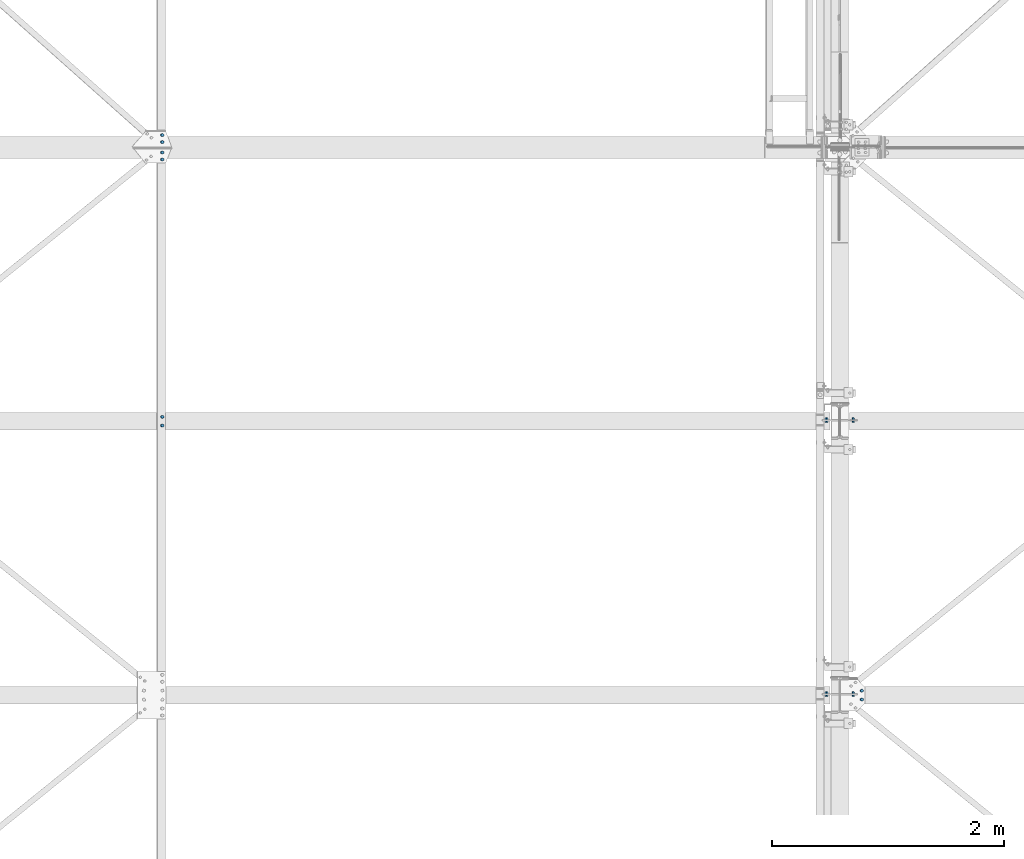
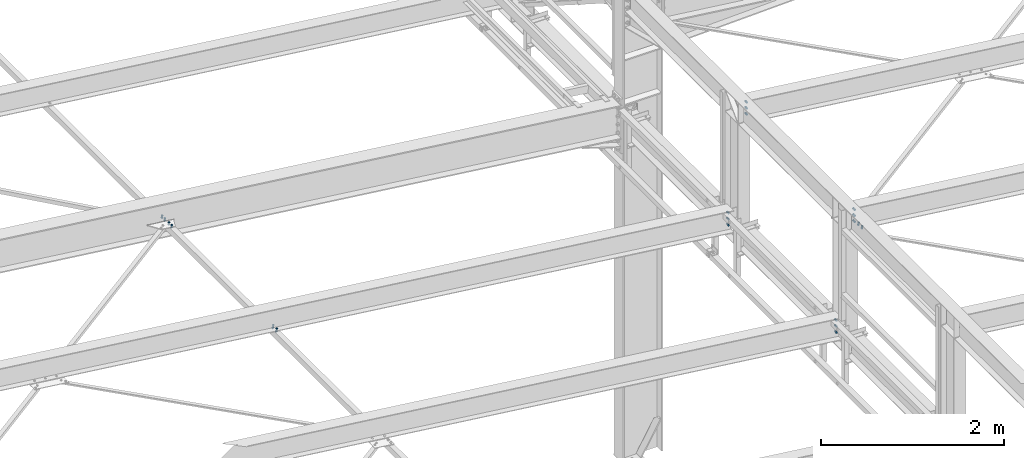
# One storey, part 137 of 3134: 8 mechanical fasteners, 6 elements without a shape of their own.
"""IFC2X3 building model written with IfcOpenShell, lengths in millimetres."""

import ifcopenshell
import ifcopenshell.guid

model = None  # the IFC model being written
_history = None  # IfcOwnerHistory: only IFC2X3 demands one
_inside = {}  # id of a spatial element -> (the spatial element, [elements in it])
_under = {}  # id of a project, library or spatial element -> (it, [spatial elements below it])
_declared = {}  # id of a project -> (the project, [libraries it declares])
_typed = {}  # id of a type object -> (the type object, [elements of that type])
_made_of = {}  # id of a material, layer set ... -> (it, [elements and type objects made of it])


def new_model(schema):
    """Start an empty IFC model of exactly this schema.

    Asked for "IFC4X3", IfcOpenShell would pick the latest addendum, in which some entities
    have other attributes; the version numbers below select the first issue.
    IFC2X3 requires an IfcOwnerHistory on every rooted entity: one is made here for all.
    """
    global model, _history
    if schema == "IFC4X3":
        model = ifcopenshell.file(schema_version=(4, 3, 0, 0))
    else:
        model = ifcopenshell.file(schema=schema)
    _inside.clear()
    _under.clear()
    _declared.clear()
    _typed.clear()
    _made_of.clear()
    _history = None
    if model.schema == "IFC2X3":
        org = make("IfcOrganization", Name="unknown")
        user = make(
            "IfcPersonAndOrganization",
            ThePerson=make("IfcPerson", FamilyName="unknown"),
            TheOrganization=org,
        )
        app = make(
            "IfcApplication",
            ApplicationDeveloper=org,
            Version="unknown",
            ApplicationFullName="unknown",
            ApplicationIdentifier="unknown",
        )
        _history = make(
            "IfcOwnerHistory",
            OwningUser=user,
            OwningApplication=app,
            ChangeAction="ADDED",
            CreationDate=0,
        )
    return model


def make(cls, **values):
    """One entity of the class cls with the attributes given. An attribute that is None is left unset."""
    return model.create_entity(
        cls, **{name: value for name, value in values.items() if value is not None}
    )


def rooted(cls, **values):
    """An entity with a GlobalId (a new one), such as an element, a storey or a relation."""
    return make(cls, GlobalId=ifcopenshell.guid.new(), OwnerHistory=_history, **values)


def si_unit(unit_type, name, prefix=None):
    """IfcSIUnit, for example si_unit("LENGTHUNIT", "METRE", prefix="MILLI")."""
    return make("IfcSIUnit", UnitType=unit_type, Prefix=prefix, Name=name)


def assignment(units):
    """IfcUnitAssignment: the units of a project."""
    return None if units is None else make("IfcUnitAssignment", Units=units)


def point(xyz):
    """IfcCartesianPoint."""
    return None if xyz is None else make("IfcCartesianPoint", Coordinates=xyz)


def direction(xyz):
    """IfcDirection."""
    return None if xyz is None else make("IfcDirection", DirectionRatios=xyz)


def frame(location, z_axis=None, x_axis=None):
    """IfcAxis2Placement3D, a coordinate frame: its origin and axes. An axis left out is left unset."""
    return make(
        "IfcAxis2Placement3D",
        Location=point(location),
        Axis=direction(z_axis),
        RefDirection=direction(x_axis),
    )


def origin_with_axes():
    """The frame at (0, 0, 0) with the z axis (0, 0, 1) and the x axis (1, 0, 0) written out."""
    return frame((0.0, 0.0, 0.0), z_axis=(0.0, 0.0, 1.0), x_axis=(1.0, 0.0, 0.0))


def place(relative_to, where):
    """IfcLocalPlacement: puts the frame where relative to a parent placement (None: the world)."""
    return make(
        "IfcLocalPlacement", PlacementRelTo=relative_to, RelativePlacement=where
    )


def context(
    kind, dimensions, precision=None, world=None, true_north=None, identifier=None
):
    """IfcGeometricRepresentationContext, for example the 3D "Model" context."""
    return make(
        "IfcGeometricRepresentationContext",
        ContextIdentifier=identifier,
        ContextType=kind,
        CoordinateSpaceDimension=dimensions,
        Precision=precision,
        WorldCoordinateSystem=world,
        TrueNorth=true_north,
    )


def subcontext(parent, identifier, kind, view, scale=None):
    """IfcGeometricRepresentationSubContext, for example "Body" below "Model"."""
    return make(
        "IfcGeometricRepresentationSubContext",
        ContextIdentifier=identifier,
        ContextType=kind,
        ParentContext=parent,
        TargetScale=scale,
        TargetView=view,
    )


def project(units=None, contexts=None):
    """IfcProject with its units and contexts."""
    return rooted(
        "IfcProject",
        Name="project",
        RepresentationContexts=contexts,
        UnitsInContext=assignment(units),
    )


def spatial(cls, under=None, at=None, **own):
    """A site, building, storey or space (cls), placed at a placement, below another one or the project."""
    s = rooted(cls, ObjectPlacement=at, **own)
    if under is not None:
        _under.setdefault(under.id(), (under, []))[1].append(s)
    return s


def faces_of(points, faces, orient=None, outer=None):
    """IfcFace entities. A face is a list of loops; a loop is a list of indices into points, from 0.

    orient and outer hold one flag for each loop. By default every Orientation is true, the
    first loop of a face is its IfcFaceOuterBound and the others are IfcFaceBound.
    """
    made = []
    for i, loops in enumerate(faces):
        bounds = []
        for j, loop in enumerate(loops):
            is_outer = j == 0 if outer is None else outer[i][j]
            bounds.append(
                make(
                    "IfcFaceOuterBound" if is_outer else "IfcFaceBound",
                    Bound=make("IfcPolyLoop", Polygon=[points[k] for k in loop]),
                    Orientation=True if orient is None else orient[i][j],
                )
            )
        made.append(make("IfcFace", Bounds=bounds))
    return made


def faceted_brep(points, faces, orient=None, outer=None, voids=None):
    """IfcFacetedBrep: a solid bounded by flat faces; with voids (closed shells), ...WithVoids."""
    shared = [point(p) for p in points]
    hull = make("IfcClosedShell", CfsFaces=faces_of(shared, faces, orient, outer))
    if voids is None:
        return make("IfcFacetedBrep", Outer=hull)
    return make(
        "IfcFacetedBrepWithVoids",
        Outer=hull,
        Voids=[
            make(cls, CfsFaces=faces_of(shared, fs, o, b)) for cls, fs, o, b in voids
        ],
    )


def shape(context_of_items, identifier, shape_type, items):
    """IfcShapeRepresentation: the items that make up one representation, for example the "Body"."""
    return make(
        "IfcShapeRepresentation",
        ContextOfItems=context_of_items,
        RepresentationIdentifier=identifier,
        RepresentationType=shape_type,
        Items=items,
    )


def source(mapping_origin, context_of_items, identifier, shape_type, items):
    """IfcRepresentationMap: a shape defined once, which mapped items show again and again."""
    return make(
        "IfcRepresentationMap",
        MappingOrigin=mapping_origin,
        MappedRepresentation=shape(context_of_items, identifier, shape_type, items),
    )


def transform(
    local_origin,
    x_axis=None,
    y_axis=None,
    z_axis=None,
    scale=None,
    scale2=None,
    scale3=None,
    uniform=True,
):
    """IfcCartesianTransformationOperator3D, or its non-uniform kind. x_axis, y_axis, z_axis: its Axis1, 2, 3."""
    if uniform:
        return make(
            "IfcCartesianTransformationOperator3D",
            Axis1=direction(x_axis),
            Axis2=direction(y_axis),
            LocalOrigin=point(local_origin),
            Scale=scale,
            Axis3=direction(z_axis),
        )
    return make(
        "IfcCartesianTransformationOperator3DnonUniform",
        Axis1=direction(x_axis),
        Axis2=direction(y_axis),
        LocalOrigin=point(local_origin),
        Scale=scale,
        Axis3=direction(z_axis),
        Scale2=scale2,
        Scale3=scale3,
    )


def mapped(mapping_source, mapping_target):
    """IfcMappedItem: shows the shape of a source again, moved by a transform."""
    return make(
        "IfcMappedItem", MappingSource=mapping_source, MappingTarget=mapping_target
    )


def material(Name=None, Category=None):
    """IfcMaterial."""
    return make("IfcMaterial", Name=Name, Category=Category)


def made_of(thing, what):
    """Note that an element or type object is made of a material, layer set ...; save() writes the relation."""
    if what is not None:
        _made_of.setdefault(what.id(), (what, []))[1].append(thing)
    return thing


def type_object(cls, material=None, **own):
    """A type object (cls), such as IfcWallType, which elements share."""
    return made_of(rooted(cls, **own), material)


def element(
    cls,
    number,
    at=None,
    inside=None,
    cuts=None,
    type_object=None,
    material=None,
    context=None,
    identifier="Body",
    shape_type=None,
    held_by="IfcProductDefinitionShape",
    body=None,
    shapes=None,
    **own,
):
    """One element of the class cls, such as IfcWall. Its Tag is "e" and its number.

    at: its placement. inside: the storey or other place that contains it. cuts: it is an
    opening in that element (IfcRelVoidsElement). A single representation is given by context,
    identifier, shape_type and body (its items); several are given by shapes. held_by: the class
    of the entity that holds the representations. save() writes the other relations.
    """
    e = rooted(cls, Tag="e%d" % number, ObjectPlacement=at, **own)
    if body is not None:
        shapes = [shape(context, identifier, shape_type, body)]
    if shapes is not None:
        e.Representation = make(held_by, Representations=shapes)
    if inside is not None:
        _inside.setdefault(inside.id(), (inside, []))[1].append(e)
    if cuts is not None:
        rooted(
            "IfcRelVoidsElement", RelatingBuildingElement=cuts, RelatedOpeningElement=e
        )
    if type_object is not None:
        _typed.setdefault(type_object.id(), (type_object, []))[1].append(e)
    return made_of(e, material)


def aggregate(whole, parts):
    """IfcRelAggregates: a whole, such as a stair, and the parts it consists of."""
    return rooted("IfcRelAggregates", RelatingObject=whole, RelatedObjects=parts)


def save(model, path):
    """Write the relations noted so far, then the file.

    IfcRelAggregates (storeys below a building ...), IfcRelContainedInSpatialStructure (elements
    in a storey), IfcRelDefinesByType, IfcRelAssociatesMaterial and IfcRelDeclares: one each for
    every whole, place, type object, material and project.
    """
    for whole, parts in _under.values():
        aggregate(whole, parts)
    for where, things in _inside.values():
        rooted(
            "IfcRelContainedInSpatialStructure",
            RelatedElements=things,
            RelatingStructure=where,
        )
    for kind, things in _typed.values():
        rooted("IfcRelDefinesByType", RelatedObjects=things, RelatingType=kind)
    for what, things in _made_of.values():
        rooted("IfcRelAssociatesMaterial", RelatedObjects=things, RelatingMaterial=what)
    for by, libraries in _declared.values():
        rooted("IfcRelDeclares", RelatingContext=by, RelatedDefinitions=libraries)
    model.write(path)


model = new_model("IFC2X3")

# Units and contexts
model_context = context("Model", 3, precision=1e-05, world=origin_with_axes())
body_context = subcontext(model_context, "Body", "Model", "MODEL_VIEW")
ifc_project = project(units=[si_unit("LENGTHUNIT", "METRE", prefix="MILLI"), si_unit("AREAUNIT", "SQUARE_METRE"), si_unit("VOLUMEUNIT", "CUBIC_METRE"), si_unit("MASSUNIT", "GRAM", prefix="KILO"), si_unit("TIMEUNIT", "SECOND"), si_unit("PLANEANGLEUNIT", "RADIAN"), si_unit("SOLIDANGLEUNIT", "STERADIAN"), si_unit("THERMODYNAMICTEMPERATUREUNIT", "DEGREE_CELSIUS"), si_unit("LUMINOUSINTENSITYUNIT", "LUMEN")], contexts=[model_context])

# Site, building, storey
site_placement = place(None, origin_with_axes())
site = spatial("IfcSite", under=ifc_project, at=site_placement, CompositionType="ELEMENT")
building_placement = place(site_placement, origin_with_axes())
building = spatial("IfcBuilding", under=site, at=building_placement, Name="Undefined", CompositionType="ELEMENT")
storey_placement = place(building_placement, origin_with_axes())
storey = spatial("IfcBuildingStorey", under=building, at=storey_placement, Name="Undefined", CompositionType="ELEMENT", Elevation=0.0)

# Assembly, mechanical fastener
assembly_1_placement = place(storey_placement, origin_with_axes())
assembly_1 = element("IfcElementAssembly", 1, at=assembly_1_placement, inside=storey, Name="300", AssemblyPlace="NOTDEFINED", PredefinedType="RIGID_FRAME")
ifc_material = material(Name="8.8")
mechanical_fastener_type = type_object("IfcMechanicalFastenerType", Name="Bolt assembly")
shared_shape_1 = source(origin_with_axes(), body_context, "Body", "Brep", [
    faceted_brep([(13.856406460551, -19.199990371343, 0.0), (6.92820323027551, -19.199990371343, 12.0), (-6.92820323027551, -19.199990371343, 12.0), (-13.856406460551, -19.199990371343, 1.69692038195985e-15), (-6.92820323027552, -19.199990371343, -12.0), (6.9282032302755, -19.199990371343, -12.0), (6.9282032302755, -9.19999037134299, -12.0), (-6.92820323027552, -9.19999037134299, -12.0), (-13.856406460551, -9.19999037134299, 1.69692038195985e-15), (-6.92820323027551, -9.19999037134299, 12.0), (6.92820323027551, -9.19999037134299, 12.0), (13.856406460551, -9.19999037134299, 0.0), (8.0, -9.19999037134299, 0.0), (6.92820323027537, -9.19999037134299, 4.00000000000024), (3.99999999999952, -9.19999037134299, 6.92820323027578), (-8.29068785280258e-13, -9.19999037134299, 8.0), (-4.00000000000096, -9.19999037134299, 6.92820323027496), (-6.9282032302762, -9.19999037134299, 3.99999999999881), (-8.0, -9.19999037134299, -1.65813757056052e-12), (-6.92820323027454, -9.19999037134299, -4.00000000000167), (-3.99999999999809, -9.19999037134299, -6.92820323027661), (2.47832457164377e-12, -9.19999037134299, -8.0), (4.00000000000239, -9.19999037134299, -6.92820323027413), (6.92820323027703, -9.19999037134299, -3.99999999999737), (6.92820323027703, 25.800009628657, -3.99999999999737), (4.00000000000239, 25.800009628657, -6.92820323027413), (2.47832457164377e-12, 25.800009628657, -8.0), (-3.99999999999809, 25.800009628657, -6.92820323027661), (-6.92820323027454, 25.800009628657, -4.00000000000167), (-8.0, 25.800009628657, -1.65813757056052e-12), (-6.9282032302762, 25.800009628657, 3.99999999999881), (-4.00000000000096, 25.800009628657, 6.92820323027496), (-8.29068785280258e-13, 25.800009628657, 8.0), (3.99999999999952, 25.800009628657, 6.92820323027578), (6.92820323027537, 25.800009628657, 4.00000000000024), (8.0, 25.800009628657, 0.0), (13.856406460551, 8.00000637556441, 0.0), (6.92820323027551, 8.00000637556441, 12.0), (-6.92820323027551, 8.00000637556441, 12.0), (-13.856406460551, 8.00000637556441, 1.69692038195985e-15), (-6.92820323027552, 8.00000637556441, -12.0), (6.9282032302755, 8.00000637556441, -12.0), (6.9282032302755, 21.0000063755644, -12.0), (-6.92820323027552, 21.0000063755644, -12.0), (-13.856406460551, 21.0000063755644, 1.69692038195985e-15), (-6.92820323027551, 21.0000063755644, 12.0), (6.92820323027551, 21.0000063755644, 12.0), (13.856406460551, 21.0000063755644, 0.0)], [[[0, 1, 2, 3, 4, 5]], [[6, 7, 8, 9, 10, 11]], [[0, 11, 10, 1]], [[1, 10, 9, 2]], [[2, 9, 8, 3]], [[3, 8, 7, 4]], [[4, 7, 6, 5]], [[5, 6, 11, 0]], [[12, 13, 14, 15, 16, 17, 18, 19, 20, 21, 22, 23]], [[24, 25, 26, 27, 28, 29, 30, 31, 32, 33, 34, 35]], [[12, 35, 34, 13]], [[13, 34, 33, 14]], [[14, 33, 32, 15]], [[15, 32, 31, 16]], [[16, 31, 30, 17]], [[17, 30, 29, 18]], [[18, 29, 28, 19]], [[19, 28, 27, 20]], [[20, 27, 26, 21]], [[21, 26, 25, 22]], [[22, 25, 24, 23]], [[23, 24, 35, 12]], [[36, 37, 38, 39, 40, 41]], [[42, 43, 44, 45, 46, 47]], [[36, 47, 46, 37]], [[37, 46, 45, 38]], [[38, 45, 44, 39]], [[39, 44, 43, 40]], [[40, 43, 42, 41]], [[41, 42, 47, 36]]]),
    faceted_brep([(9.0, -0.1, 0.0), (7.79422863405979, -0.1, 4.50000000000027), (4.49999999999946, -0.1, 7.79422863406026), (-9.3270238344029e-13, -0.1, 9.0), (-4.50000000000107, -0.1, 7.79422863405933), (-7.79422863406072, -0.1, 4.49999999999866), (-9.0, -0.1, -1.86540476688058e-12), (-7.79422863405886, -0.1, -4.50000000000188), (-4.49999999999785, -0.1, -7.79422863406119), (2.78811514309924e-12, -0.1, -9.0), (4.50000000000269, -0.1, -7.7942286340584), (7.79422863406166, -0.1, -4.49999999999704), (7.79422863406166, 8.00000000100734, -4.49999999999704), (4.50000000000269, 8.00000000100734, -7.7942286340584), (2.78811514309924e-12, 8.00000000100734, -9.0), (-4.49999999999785, 8.00000000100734, -7.79422863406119), (-7.79422863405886, 8.00000000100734, -4.50000000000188), (-9.0, 8.00000000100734, -1.86540476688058e-12), (-7.79422863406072, 8.00000000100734, 4.49999999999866), (-4.50000000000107, 8.00000000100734, 7.79422863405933), (-9.3270238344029e-13, 8.00000000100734, 9.0), (4.49999999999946, 8.00000000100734, 7.79422863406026), (7.79422863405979, 8.00000000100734, 4.50000000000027), (9.0, 8.00000000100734, 0.0), (9.0, -9.09999037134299, 0.0), (7.79422863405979, -9.09999037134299, 4.50000000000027), (4.49999999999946, -9.09999037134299, 7.79422863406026), (-9.3270238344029e-13, -9.09999037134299, 9.0), (-4.50000000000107, -9.09999037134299, 7.79422863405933), (-7.79422863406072, -9.09999037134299, 4.49999999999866), (-9.0, -9.09999037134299, -1.86540476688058e-12), (-7.79422863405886, -9.09999037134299, -4.50000000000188), (-4.49999999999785, -9.09999037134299, -7.79422863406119), (2.78811514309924e-12, -9.09999037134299, -9.0), (4.50000000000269, -9.09999037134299, -7.7942286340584), (7.79422863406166, -9.09999037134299, -4.49999999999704), (7.79422863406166, 0.100000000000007, -4.49999999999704), (4.50000000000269, 0.100000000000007, -7.7942286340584), (2.78811514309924e-12, 0.100000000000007, -9.0), (-4.49999999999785, 0.100000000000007, -7.79422863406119), (-7.79422863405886, 0.100000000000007, -4.50000000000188), (-9.0, 0.100000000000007, -1.86540476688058e-12), (-7.79422863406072, 0.100000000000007, 4.49999999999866), (-4.50000000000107, 0.100000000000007, 7.79422863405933), (-9.3270238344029e-13, 0.100000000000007, 9.0), (4.49999999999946, 0.100000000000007, 7.79422863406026), (7.79422863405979, 0.100000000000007, 4.50000000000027), (9.0, 0.100000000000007, 0.0)], [[[0, 1, 2, 3, 4, 5, 6, 7, 8, 9, 10, 11]], [[12, 13, 14, 15, 16, 17, 18, 19, 20, 21, 22, 23]], [[0, 23, 22, 1]], [[1, 22, 21, 2]], [[2, 21, 20, 3]], [[3, 20, 19, 4]], [[4, 19, 18, 5]], [[5, 18, 17, 6]], [[6, 17, 16, 7]], [[7, 16, 15, 8]], [[8, 15, 14, 9]], [[9, 14, 13, 10]], [[10, 13, 12, 11]], [[11, 12, 23, 0]], [[24, 25, 26, 27, 28, 29, 30, 31, 32, 33, 34, 35]], [[36, 37, 38, 39, 40, 41, 42, 43, 44, 45, 46, 47]], [[24, 47, 46, 25]], [[25, 46, 45, 26]], [[26, 45, 44, 27]], [[27, 44, 43, 28]], [[28, 43, 42, 29]], [[29, 42, 41, 30]], [[30, 41, 40, 31]], [[31, 40, 39, 32]], [[32, 39, 38, 33]], [[33, 38, 37, 34]], [[34, 37, 36, 35]], [[35, 36, 47, 24]]]),
])
mechanical_fastener_1_placement = place(assembly_1_placement, frame((44389.2248162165, 14767.9995130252, 5496.68063425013), z_axis=(0.992623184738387, 1.63108538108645e-05, -0.12124031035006), x_axis=(1.62000016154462e-05, -0.999999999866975, -1.90000018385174e-06)))
mechanical_fastener_1 = element("IfcMechanicalFastener", 2, at=mechanical_fastener_1_placement, type_object=mechanical_fastener_type, material=ifc_material, Name="Bolt assembly", NominalDiameter=16.0, NominalLength=35.0, context=body_context, shape_type="MappedRepresentation", body=[
    mapped(shared_shape_1, transform((0.0, 0.0, 0.0))),
    mapped(shared_shape_1, transform((76.0, 0.0, 0.0))),
])

assembly_2_placement = place(storey_placement, origin_with_axes())
assembly_2 = element("IfcElementAssembly", 3, at=assembly_2_placement, inside=storey, Name="300", AssemblyPlace="NOTDEFINED", PredefinedType="RIGID_FRAME")
shared_shape_2 = source(origin_with_axes(), body_context, "Body", "Brep", [
    faceted_brep([(13.856406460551, -13.0499999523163, 0.0), (6.92820323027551, -13.0499999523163, 12.0), (-6.92820323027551, -13.0499999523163, 12.0), (-13.856406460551, -13.0499999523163, 1.69692038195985e-15), (-6.92820323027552, -13.0499999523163, -12.0), (6.9282032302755, -13.0499999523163, -12.0), (6.9282032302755, -3.04999995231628, -12.0), (-6.92820323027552, -3.04999995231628, -12.0), (-13.856406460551, -3.04999995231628, 1.69692038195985e-15), (-6.92820323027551, -3.04999995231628, 12.0), (6.92820323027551, -3.04999995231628, 12.0), (13.856406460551, -3.04999995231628, 0.0), (8.0, -3.04999995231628, 0.0), (6.92820323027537, -3.04999995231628, 4.00000000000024), (3.99999999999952, -3.04999995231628, 6.92820323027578), (-8.29068785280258e-13, -3.04999995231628, 8.0), (-4.00000000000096, -3.04999995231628, 6.92820323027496), (-6.9282032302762, -3.04999995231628, 3.99999999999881), (-8.0, -3.04999995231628, -1.65813757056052e-12), (-6.92820323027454, -3.04999995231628, -4.00000000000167), (-3.99999999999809, -3.04999995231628, -6.92820323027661), (2.47832457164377e-12, -3.04999995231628, -8.0), (4.00000000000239, -3.04999995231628, -6.92820323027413), (6.92820323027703, -3.04999995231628, -3.99999999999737), (6.92820323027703, 31.9500000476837, -3.99999999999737), (4.00000000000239, 31.9500000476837, -6.92820323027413), (2.47832457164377e-12, 31.9500000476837, -8.0), (-3.99999999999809, 31.9500000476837, -6.92820323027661), (-6.92820323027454, 31.9500000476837, -4.00000000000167), (-8.0, 31.9500000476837, -1.65813757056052e-12), (-6.9282032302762, 31.9500000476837, 3.99999999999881), (-4.00000000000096, 31.9500000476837, 6.92820323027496), (-8.29068785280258e-13, 31.9500000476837, 8.0), (3.99999999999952, 31.9500000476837, 6.92820323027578), (6.92820323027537, 31.9500000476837, 4.00000000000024), (8.0, 31.9500000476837, 0.0), (13.856406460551, 13.0500000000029, 0.0), (6.92820323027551, 13.0500000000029, 12.0), (-6.92820323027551, 13.0500000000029, 12.0), (-13.856406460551, 13.0500000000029, 1.69692038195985e-15), (-6.92820323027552, 13.0500000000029, -12.0), (6.9282032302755, 13.0500000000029, -12.0), (6.9282032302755, 26.0500000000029, -12.0), (-6.92820323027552, 26.0500000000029, -12.0), (-13.856406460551, 26.0500000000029, 1.69692038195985e-15), (-6.92820323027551, 26.0500000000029, 12.0), (6.92820323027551, 26.0500000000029, 12.0), (13.856406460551, 26.0500000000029, 0.0)], [[[0, 1, 2, 3, 4, 5]], [[6, 7, 8, 9, 10, 11]], [[0, 11, 10, 1]], [[1, 10, 9, 2]], [[2, 9, 8, 3]], [[3, 8, 7, 4]], [[4, 7, 6, 5]], [[5, 6, 11, 0]], [[12, 13, 14, 15, 16, 17, 18, 19, 20, 21, 22, 23]], [[24, 25, 26, 27, 28, 29, 30, 31, 32, 33, 34, 35]], [[12, 35, 34, 13]], [[13, 34, 33, 14]], [[14, 33, 32, 15]], [[15, 32, 31, 16]], [[16, 31, 30, 17]], [[17, 30, 29, 18]], [[18, 29, 28, 19]], [[19, 28, 27, 20]], [[20, 27, 26, 21]], [[21, 26, 25, 22]], [[22, 25, 24, 23]], [[23, 24, 35, 12]], [[36, 37, 38, 39, 40, 41]], [[42, 43, 44, 45, 46, 47]], [[36, 47, 46, 37]], [[37, 46, 45, 38]], [[38, 45, 44, 39]], [[39, 44, 43, 40]], [[40, 43, 42, 41]], [[41, 42, 47, 36]]]),
    faceted_brep([(9.0, 2.95000000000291, 0.0), (7.79422863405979, 2.95000000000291, 4.50000000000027), (4.49999999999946, 2.95000000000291, 7.79422863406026), (-9.3270238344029e-13, 2.95000000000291, 9.0), (-4.50000000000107, 2.95000000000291, 7.79422863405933), (-7.79422863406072, 2.95000000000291, 4.49999999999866), (-9.0, 2.95000000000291, -1.86540476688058e-12), (-7.79422863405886, 2.95000000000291, -4.50000000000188), (-4.49999999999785, 2.95000000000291, -7.79422863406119), (2.78811514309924e-12, 2.95000000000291, -9.0), (4.50000000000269, 2.95000000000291, -7.7942286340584), (7.79422863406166, 2.95000000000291, -4.49999999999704), (7.79422863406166, 13.0500000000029, -4.49999999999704), (4.50000000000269, 13.0500000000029, -7.7942286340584), (2.78811514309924e-12, 13.0500000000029, -9.0), (-4.49999999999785, 13.0500000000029, -7.79422863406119), (-7.79422863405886, 13.0500000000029, -4.50000000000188), (-9.0, 13.0500000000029, -1.86540476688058e-12), (-7.79422863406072, 13.0500000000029, 4.49999999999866), (-4.50000000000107, 13.0500000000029, 7.79422863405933), (-9.3270238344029e-13, 13.0500000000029, 9.0), (4.49999999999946, 13.0500000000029, 7.79422863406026), (7.79422863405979, 13.0500000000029, 4.50000000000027), (9.0, 13.0500000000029, 0.0), (9.0, -2.94999995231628, 0.0), (7.79422863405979, -2.94999995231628, 4.50000000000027), (4.49999999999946, -2.94999995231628, 7.79422863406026), (-9.3270238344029e-13, -2.94999995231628, 9.0), (-4.50000000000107, -2.94999995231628, 7.79422863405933), (-7.79422863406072, -2.94999995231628, 4.49999999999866), (-9.0, -2.94999995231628, -1.86540476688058e-12), (-7.79422863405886, -2.94999995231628, -4.50000000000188), (-4.49999999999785, -2.94999995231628, -7.79422863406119), (2.78811514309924e-12, -2.94999995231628, -9.0), (4.50000000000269, -2.94999995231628, -7.7942286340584), (7.79422863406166, -2.94999995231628, -4.49999999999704), (7.79422863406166, 3.14999995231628, -4.49999999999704), (4.50000000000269, 3.14999995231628, -7.7942286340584), (2.78811514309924e-12, 3.14999995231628, -9.0), (-4.49999999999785, 3.14999995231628, -7.79422863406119), (-7.79422863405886, 3.14999995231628, -4.50000000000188), (-9.0, 3.14999995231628, -1.86540476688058e-12), (-7.79422863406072, 3.14999995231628, 4.49999999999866), (-4.50000000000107, 3.14999995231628, 7.79422863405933), (-9.3270238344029e-13, 3.14999995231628, 9.0), (4.49999999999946, 3.14999995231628, 7.79422863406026), (7.79422863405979, 3.14999995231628, 4.50000000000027), (9.0, 3.14999995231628, 0.0)], [[[0, 1, 2, 3, 4, 5, 6, 7, 8, 9, 10, 11]], [[12, 13, 14, 15, 16, 17, 18, 19, 20, 21, 22, 23]], [[0, 23, 22, 1]], [[1, 22, 21, 2]], [[2, 21, 20, 3]], [[3, 20, 19, 4]], [[4, 19, 18, 5]], [[5, 18, 17, 6]], [[6, 17, 16, 7]], [[7, 16, 15, 8]], [[8, 15, 14, 9]], [[9, 14, 13, 10]], [[10, 13, 12, 11]], [[11, 12, 23, 0]], [[24, 25, 26, 27, 28, 29, 30, 31, 32, 33, 34, 35]], [[36, 37, 38, 39, 40, 41, 42, 43, 44, 45, 46, 47]], [[24, 47, 46, 25]], [[25, 46, 45, 26]], [[26, 45, 44, 27]], [[27, 44, 43, 28]], [[28, 43, 42, 29]], [[29, 42, 41, 30]], [[30, 41, 40, 31]], [[31, 40, 39, 32]], [[32, 39, 38, 33]], [[33, 38, 37, 34]], [[34, 37, 36, 35]], [[35, 36, 47, 24]]]),
])
mechanical_fastener_2_placement = place(assembly_2_placement, frame((44085.0, 17090.0, 4337.44269270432), z_axis=(1.0, 0.0, 0.0), x_axis=(0.0, 0.0, -1.0)))
mechanical_fastener_2 = element("IfcMechanicalFastener", 4, at=mechanical_fastener_2_placement, type_object=mechanical_fastener_type, material=ifc_material, Name="Bolt assembly", NominalDiameter=16.0, NominalLength=35.0, context=body_context, shape_type="MappedRepresentation", body=[
    mapped(shared_shape_2, transform((0.0, 0.0, 0.0))),
    mapped(shared_shape_2, transform((80.0, 0.0, 0.0))),
    mapped(shared_shape_2, transform((160.0, 0.0, 0.0))),
])
aggregate(assembly_2, [mechanical_fastener_2])

assembly_3_placement = place(storey_placement, origin_with_axes())
assembly_3 = element("IfcElementAssembly", 5, at=assembly_3_placement, inside=storey, Name="300", AssemblyPlace="NOTDEFINED", PredefinedType="RIGID_FRAME")
mechanical_fastener_3_placement = place(assembly_3_placement, frame((44085.0000000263, 14730.0, 4337.44269268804), z_axis=(1.0, 0.0, 0.0), x_axis=(0.0, 0.0, -1.0)))
mechanical_fastener_3 = element("IfcMechanicalFastener", 6, at=mechanical_fastener_3_placement, type_object=mechanical_fastener_type, material=ifc_material, Name="Bolt assembly", NominalDiameter=16.0, NominalLength=35.0, context=body_context, shape_type="MappedRepresentation", body=[
    mapped(shared_shape_2, transform((0.0, 0.0, 0.0))),
    mapped(shared_shape_2, transform((80.0, 0.0, 0.0))),
    mapped(shared_shape_2, transform((160.0, 0.0, 0.0))),
])
aggregate(assembly_3, [mechanical_fastener_3])

# Mechanical fastener
mechanical_fastener_4_placement = place(assembly_1_placement, frame((44314.9999999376, 14730.0, 5735.35014954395), z_axis=(1.0, 0.0, 0.0), x_axis=(0.0, 0.0, -1.0)))
mechanical_fastener_4 = element("IfcMechanicalFastener", 7, at=mechanical_fastener_4_placement, type_object=mechanical_fastener_type, material=ifc_material, Name="Bolt assembly", NominalDiameter=16.0, NominalLength=35.0, context=body_context, shape_type="MappedRepresentation", body=[
    mapped(shared_shape_2, transform((0.0, 0.0, 0.0))),
    mapped(shared_shape_2, transform((80.0, 0.0, 0.0))),
    mapped(shared_shape_2, transform((160.0, 0.0, 0.0))),
])

aggregate(assembly_1, [mechanical_fastener_4, mechanical_fastener_1])

# Assembly, mechanical fastener
assembly_4_placement = place(storey_placement, origin_with_axes())
assembly_4 = element("IfcElementAssembly", 8, at=assembly_4_placement, inside=storey, Name="300", AssemblyPlace="NOTDEFINED", PredefinedType="RIGID_FRAME")
mechanical_fastener_5_placement = place(assembly_4_placement, frame((44315.0, 17090.0, 5735.35014950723), z_axis=(1.0, 0.0, 0.0), x_axis=(0.0, 0.0, -1.0)))
mechanical_fastener_5 = element("IfcMechanicalFastener", 9, at=mechanical_fastener_5_placement, type_object=mechanical_fastener_type, material=ifc_material, Name="Bolt assembly", NominalDiameter=16.0, NominalLength=35.0, context=body_context, shape_type="MappedRepresentation", body=[
    mapped(shared_shape_2, transform((0.0, 0.0, 0.0))),
    mapped(shared_shape_2, transform((80.0, 0.0, 0.0))),
    mapped(shared_shape_2, transform((160.0, 0.0, 0.0))),
])
aggregate(assembly_4, [mechanical_fastener_5])

assembly_5_placement = place(storey_placement, origin_with_axes())
assembly_5 = element("IfcElementAssembly", 10, at=assembly_5_placement, inside=storey, AssemblyPlace="NOTDEFINED", PredefinedType="RIGID_FRAME")
shared_shape_3 = source(origin_with_axes(), body_context, "Body", "Brep", [
    faceted_brep([(13.856406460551, -19.199990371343, 0.0), (6.92820323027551, -19.199990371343, 12.0), (-6.92820323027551, -19.199990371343, 12.0), (-13.856406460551, -19.199990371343, 1.69692038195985e-15), (-6.92820323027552, -19.199990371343, -12.0), (6.9282032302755, -19.199990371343, -12.0), (6.9282032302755, -9.19999037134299, -12.0), (-6.92820323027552, -9.19999037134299, -12.0), (-13.856406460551, -9.19999037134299, 1.69692038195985e-15), (-6.92820323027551, -9.19999037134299, 12.0), (6.92820323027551, -9.19999037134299, 12.0), (13.856406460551, -9.19999037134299, 0.0), (8.0, -9.19999037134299, 0.0), (6.92820323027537, -9.19999037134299, 4.00000000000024), (3.99999999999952, -9.19999037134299, 6.92820323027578), (-8.29068785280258e-13, -9.19999037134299, 8.0), (-4.00000000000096, -9.19999037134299, 6.92820323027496), (-6.9282032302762, -9.19999037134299, 3.99999999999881), (-8.0, -9.19999037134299, -1.65813757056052e-12), (-6.92820323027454, -9.19999037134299, -4.00000000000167), (-3.99999999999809, -9.19999037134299, -6.92820323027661), (2.47832457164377e-12, -9.19999037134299, -8.0), (4.00000000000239, -9.19999037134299, -6.92820323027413), (6.92820323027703, -9.19999037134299, -3.99999999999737), (6.92820323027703, 35.8000002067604, -3.99999999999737), (4.00000000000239, 35.8000002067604, -6.92820323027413), (2.47832457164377e-12, 35.8000002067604, -8.0), (-3.99999999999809, 35.8000002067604, -6.92820323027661), (-6.92820323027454, 35.8000002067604, -4.00000000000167), (-8.0, 35.8000002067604, -1.65813757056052e-12), (-6.9282032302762, 35.8000002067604, 3.99999999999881), (-4.00000000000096, 35.8000002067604, 6.92820323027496), (-8.29068785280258e-13, 35.8000002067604, 8.0), (3.99999999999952, 35.8000002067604, 6.92820323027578), (6.92820323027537, 35.8000002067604, 4.00000000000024), (8.0, 35.8000002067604, 0.0), (13.856406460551, 14.9999995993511, 0.0), (6.92820323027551, 14.9999995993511, 12.0), (-6.92820323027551, 14.9999995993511, 12.0), (-13.856406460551, 14.9999995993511, 1.69692038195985e-15), (-6.92820323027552, 14.9999995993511, -12.0), (6.9282032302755, 14.9999995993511, -12.0), (6.9282032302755, 27.9999995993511, -12.0), (-6.92820323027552, 27.9999995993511, -12.0), (-13.856406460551, 27.9999995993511, 1.69692038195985e-15), (-6.92820323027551, 27.9999995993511, 12.0), (6.92820323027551, 27.9999995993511, 12.0), (13.856406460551, 27.9999995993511, 0.0)], [[[0, 1, 2, 3, 4, 5]], [[6, 7, 8, 9, 10, 11]], [[0, 11, 10, 1]], [[1, 10, 9, 2]], [[2, 9, 8, 3]], [[3, 8, 7, 4]], [[4, 7, 6, 5]], [[5, 6, 11, 0]], [[12, 13, 14, 15, 16, 17, 18, 19, 20, 21, 22, 23]], [[24, 25, 26, 27, 28, 29, 30, 31, 32, 33, 34, 35]], [[12, 35, 34, 13]], [[13, 34, 33, 14]], [[14, 33, 32, 15]], [[15, 32, 31, 16]], [[16, 31, 30, 17]], [[17, 30, 29, 18]], [[18, 29, 28, 19]], [[19, 28, 27, 20]], [[20, 27, 26, 21]], [[21, 26, 25, 22]], [[22, 25, 24, 23]], [[23, 24, 35, 12]], [[36, 37, 38, 39, 40, 41]], [[42, 43, 44, 45, 46, 47]], [[36, 47, 46, 37]], [[37, 46, 45, 38]], [[38, 45, 44, 39]], [[39, 44, 43, 40]], [[40, 43, 42, 41]], [[41, 42, 47, 36]]]),
    faceted_brep([(9.0, -9.09999037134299, 0.0), (7.79422863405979, -9.09999037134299, 4.50000000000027), (4.49999999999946, -9.09999037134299, 7.79422863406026), (-9.3270238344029e-13, -9.09999037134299, 9.0), (-4.50000000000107, -9.09999037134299, 7.79422863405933), (-7.79422863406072, -9.09999037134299, 4.49999999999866), (-9.0, -9.09999037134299, -1.86540476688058e-12), (-7.79422863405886, -9.09999037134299, -4.50000000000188), (-4.49999999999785, -9.09999037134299, -7.79422863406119), (2.78811514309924e-12, -9.09999037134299, -9.0), (4.50000000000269, -9.09999037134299, -7.7942286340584), (7.79422863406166, -9.09999037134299, -4.49999999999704), (7.79422863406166, 0.100000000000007, -4.49999999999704), (4.50000000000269, 0.100000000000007, -7.7942286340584), (2.78811514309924e-12, 0.100000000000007, -9.0), (-4.49999999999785, 0.100000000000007, -7.79422863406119), (-7.79422863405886, 0.100000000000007, -4.50000000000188), (-9.0, 0.100000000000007, -1.86540476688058e-12), (-7.79422863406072, 0.100000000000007, 4.49999999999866), (-4.50000000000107, 0.100000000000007, 7.79422863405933), (-9.3270238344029e-13, 0.100000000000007, 9.0), (4.49999999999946, 0.100000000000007, 7.79422863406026), (7.79422863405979, 0.100000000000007, 4.50000000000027), (9.0, 0.100000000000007, 0.0), (9.0, 7.9, 0.0), (7.79422863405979, 7.9, 4.50000000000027), (4.49999999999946, 7.9, 7.79422863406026), (-9.3270238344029e-13, 7.9, 9.0), (-4.50000000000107, 7.9, 7.79422863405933), (-7.79422863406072, 7.9, 4.49999999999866), (-9.0, 7.9, -1.86540476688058e-12), (-7.79422863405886, 7.9, -4.50000000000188), (-4.49999999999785, 7.9, -7.79422863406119), (2.78811514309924e-12, 7.9, -9.0), (4.50000000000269, 7.9, -7.7942286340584), (7.79422863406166, 7.9, -4.49999999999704), (7.79422863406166, 14.9999995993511, -4.49999999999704), (4.50000000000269, 14.9999995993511, -7.7942286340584), (2.78811514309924e-12, 14.9999995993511, -9.0), (-4.49999999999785, 14.9999995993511, -7.79422863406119), (-7.79422863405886, 14.9999995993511, -4.50000000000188), (-9.0, 14.9999995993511, -1.86540476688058e-12), (-7.79422863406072, 14.9999995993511, 4.49999999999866), (-4.50000000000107, 14.9999995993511, 7.79422863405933), (-9.3270238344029e-13, 14.9999995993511, 9.0), (4.49999999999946, 14.9999995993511, 7.79422863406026), (7.79422863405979, 14.9999995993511, 4.50000000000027), (9.0, 14.9999995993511, 0.0)], [[[0, 1, 2, 3, 4, 5, 6, 7, 8, 9, 10, 11]], [[12, 13, 14, 15, 16, 17, 18, 19, 20, 21, 22, 23]], [[0, 23, 22, 1]], [[1, 22, 21, 2]], [[2, 21, 20, 3]], [[3, 20, 19, 4]], [[4, 19, 18, 5]], [[5, 18, 17, 6]], [[6, 17, 16, 7]], [[7, 16, 15, 8]], [[8, 15, 14, 9]], [[9, 14, 13, 10]], [[10, 13, 12, 11]], [[11, 12, 23, 0]], [[24, 25, 26, 27, 28, 29, 30, 31, 32, 33, 34, 35]], [[36, 37, 38, 39, 40, 41, 42, 43, 44, 45, 46, 47]], [[24, 47, 46, 25]], [[25, 46, 45, 26]], [[26, 45, 44, 27]], [[27, 44, 43, 28]], [[28, 43, 42, 29]], [[29, 42, 41, 30]], [[30, 41, 40, 31]], [[31, 40, 39, 32]], [[32, 39, 38, 33]], [[33, 38, 37, 34]], [[34, 37, 36, 35]], [[35, 36, 47, 24]]]),
])
mechanical_fastener_6_placement = place(assembly_5_placement, frame((38362.984961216, 17052.0, 4806.73358921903), z_axis=(-0.992623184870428, 0.0, 0.121240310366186), x_axis=(0.0, 1.0, 0.0)))
mechanical_fastener_6 = element("IfcMechanicalFastener", 11, at=mechanical_fastener_6_placement, type_object=mechanical_fastener_type, material=ifc_material, Name="Bolt assembly", NominalDiameter=16.0, NominalLength=45.0, context=body_context, shape_type="MappedRepresentation", body=[
    mapped(shared_shape_3, transform((0.0, 0.0, 0.0))),
    mapped(shared_shape_3, transform((76.0, 0.0, 0.0))),
])
aggregate(assembly_5, [mechanical_fastener_6])

# Assembly, mechanical fasteners
assembly_6_placement = place(storey_placement, origin_with_axes())
assembly_6 = element("IfcElementAssembly", 12, at=assembly_6_placement, inside=storey, Name="IPE450", AssemblyPlace="NOTDEFINED", PredefinedType="RIGID_FRAME")
shared_shape_4 = source(origin_with_axes(), body_context, "Body", "Brep", [
    faceted_brep([(13.856406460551, -10.0, 0.0), (6.92820323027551, -10.0, 12.0), (-6.92820323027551, -10.0, 12.0), (-13.856406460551, -10.0, 1.69692038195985e-15), (-6.92820323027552, -10.0, -12.0), (6.9282032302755, -10.0, -12.0), (6.9282032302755, 0.0, -12.0), (-6.92820323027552, 0.0, -12.0), (-13.856406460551, 0.0, 1.69692038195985e-15), (-6.92820323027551, 0.0, 12.0), (6.92820323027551, 0.0, 12.0), (13.856406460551, 0.0, 0.0), (8.0, 0.0, 0.0), (6.92820323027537, 0.0, 4.00000000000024), (3.99999999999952, 0.0, 6.92820323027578), (-8.29068785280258e-13, 0.0, 8.0), (-4.00000000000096, 0.0, 6.92820323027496), (-6.9282032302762, 0.0, 3.99999999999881), (-8.0, 0.0, -1.65813757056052e-12), (-6.92820323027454, 0.0, -4.00000000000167), (-3.99999999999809, 0.0, -6.92820323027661), (2.47832457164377e-12, 0.0, -8.0), (4.00000000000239, 0.0, -6.92820323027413), (6.92820323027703, 0.0, -3.99999999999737), (6.92820323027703, 35.0000000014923, -3.99999999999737), (4.00000000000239, 35.0000000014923, -6.92820323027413), (2.47832457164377e-12, 35.0000000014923, -8.0), (-3.99999999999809, 35.0000000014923, -6.92820323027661), (-6.92820323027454, 35.0000000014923, -4.00000000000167), (-8.0, 35.0000000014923, -1.65813757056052e-12), (-6.9282032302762, 35.0000000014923, 3.99999999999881), (-4.00000000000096, 35.0000000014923, 6.92820323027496), (-8.29068785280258e-13, 35.0000000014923, 8.0), (3.99999999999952, 35.0000000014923, 6.92820323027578), (6.92820323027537, 35.0000000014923, 4.00000000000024), (8.0, 35.0000000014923, 0.0), (13.856406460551, 14.9999995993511, 0.0), (6.92820323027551, 14.9999995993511, 12.0), (-6.92820323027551, 14.9999995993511, 12.0), (-13.856406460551, 14.9999995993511, 1.69692038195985e-15), (-6.92820323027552, 14.9999995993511, -12.0), (6.9282032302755, 14.9999995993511, -12.0), (6.9282032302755, 27.9999995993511, -12.0), (-6.92820323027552, 27.9999995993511, -12.0), (-13.856406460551, 27.9999995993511, 1.69692038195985e-15), (-6.92820323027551, 27.9999995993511, 12.0), (6.92820323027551, 27.9999995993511, 12.0), (13.856406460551, 27.9999995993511, 0.0)], [[[0, 1, 2, 3, 4, 5]], [[6, 7, 8, 9, 10, 11]], [[0, 11, 10, 1]], [[1, 10, 9, 2]], [[2, 9, 8, 3]], [[3, 8, 7, 4]], [[4, 7, 6, 5]], [[5, 6, 11, 0]], [[12, 13, 14, 15, 16, 17, 18, 19, 20, 21, 22, 23]], [[24, 25, 26, 27, 28, 29, 30, 31, 32, 33, 34, 35]], [[12, 35, 34, 13]], [[13, 34, 33, 14]], [[14, 33, 32, 15]], [[15, 32, 31, 16]], [[16, 31, 30, 17]], [[17, 30, 29, 18]], [[18, 29, 28, 19]], [[19, 28, 27, 20]], [[20, 27, 26, 21]], [[21, 26, 25, 22]], [[22, 25, 24, 23]], [[23, 24, 35, 12]], [[36, 37, 38, 39, 40, 41]], [[42, 43, 44, 45, 46, 47]], [[36, 47, 46, 37]], [[37, 46, 45, 38]], [[38, 45, 44, 39]], [[39, 44, 43, 40]], [[40, 43, 42, 41]], [[41, 42, 47, 36]]]),
    faceted_brep([(9.0, 7.9, 0.0), (7.79422863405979, 7.9, 4.50000000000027), (4.49999999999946, 7.9, 7.79422863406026), (-9.3270238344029e-13, 7.9, 9.0), (-4.50000000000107, 7.9, 7.79422863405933), (-7.79422863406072, 7.9, 4.49999999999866), (-9.0, 7.9, -1.86540476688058e-12), (-7.79422863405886, 7.9, -4.50000000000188), (-4.49999999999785, 7.9, -7.79422863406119), (2.78811514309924e-12, 7.9, -9.0), (4.50000000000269, 7.9, -7.7942286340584), (7.79422863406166, 7.9, -4.49999999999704), (7.79422863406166, 14.9999995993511, -4.49999999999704), (4.50000000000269, 14.9999995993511, -7.7942286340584), (2.78811514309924e-12, 14.9999995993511, -9.0), (-4.49999999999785, 14.9999995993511, -7.79422863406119), (-7.79422863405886, 14.9999995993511, -4.50000000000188), (-9.0, 14.9999995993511, -1.86540476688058e-12), (-7.79422863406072, 14.9999995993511, 4.49999999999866), (-4.50000000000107, 14.9999995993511, 7.79422863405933), (-9.3270238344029e-13, 14.9999995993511, 9.0), (4.49999999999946, 14.9999995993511, 7.79422863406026), (7.79422863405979, 14.9999995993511, 4.50000000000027), (9.0, 14.9999995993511, 0.0), (9.0, 0.100000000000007, 0.0), (7.79422863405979, 0.100000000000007, 4.50000000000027), (4.49999999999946, 0.100000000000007, 7.79422863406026), (-9.3270238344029e-13, 0.100000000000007, 9.0), (-4.50000000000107, 0.100000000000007, 7.79422863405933), (-7.79422863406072, 0.100000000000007, 4.49999999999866), (-9.0, 0.100000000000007, -1.86540476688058e-12), (-7.79422863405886, 0.100000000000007, -4.50000000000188), (-4.49999999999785, 0.100000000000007, -7.79422863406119), (2.78811514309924e-12, 0.100000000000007, -9.0), (4.50000000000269, 0.100000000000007, -7.7942286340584), (7.79422863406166, 0.100000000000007, -4.49999999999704), (7.79422863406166, 8.1, -4.49999999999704), (4.50000000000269, 8.1, -7.7942286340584), (2.78811514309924e-12, 8.1, -9.0), (-4.49999999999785, 8.1, -7.79422863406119), (-7.79422863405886, 8.1, -4.50000000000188), (-9.0, 8.1, -1.86540476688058e-12), (-7.79422863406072, 8.1, 4.49999999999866), (-4.50000000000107, 8.1, 7.79422863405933), (-9.3270238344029e-13, 8.1, 9.0), (4.49999999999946, 8.1, 7.79422863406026), (7.79422863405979, 8.1, 4.50000000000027), (9.0, 8.1, 0.0)], [[[0, 1, 2, 3, 4, 5, 6, 7, 8, 9, 10, 11]], [[12, 13, 14, 15, 16, 17, 18, 19, 20, 21, 22, 23]], [[0, 23, 22, 1]], [[1, 22, 21, 2]], [[2, 21, 20, 3]], [[3, 20, 19, 4]], [[4, 19, 18, 5]], [[5, 18, 17, 6]], [[6, 17, 16, 7]], [[7, 16, 15, 8]], [[8, 15, 14, 9]], [[9, 14, 13, 10]], [[10, 13, 12, 11]], [[11, 12, 23, 0]], [[24, 25, 26, 27, 28, 29, 30, 31, 32, 33, 34, 35]], [[36, 37, 38, 39, 40, 41, 42, 43, 44, 45, 46, 47]], [[24, 47, 46, 25]], [[25, 46, 45, 26]], [[26, 45, 44, 27]], [[27, 44, 43, 28]], [[28, 43, 42, 29]], [[29, 42, 41, 30]], [[30, 41, 40, 31]], [[31, 40, 39, 32]], [[32, 39, 38, 33]], [[33, 38, 37, 34]], [[34, 37, 36, 35]], [[35, 36, 47, 24]]]),
])
mechanical_fastener_7_placement = place(assembly_6_placement, frame((38362.9849611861, 19495.0, 4806.73358922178), z_axis=(-0.992623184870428, 0.0, 0.121240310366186), x_axis=(0.0, 1.0, 0.0)))
mechanical_fastener_7 = element("IfcMechanicalFastener", 13, at=mechanical_fastener_7_placement, type_object=mechanical_fastener_type, material=ifc_material, Name="Bolt assembly", NominalDiameter=16.0, NominalLength=35.0, context=body_context, shape_type="MappedRepresentation", body=[
    mapped(shared_shape_4, transform((0.0, 0.0, 0.0))),
    mapped(shared_shape_4, transform((59.9999999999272, 0.0, 5.40239852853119e-10))),
])
mechanical_fastener_8_placement = place(assembly_6_placement, frame((38362.9849611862, 19405.0, 4806.73358922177), z_axis=(0.992623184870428, 0.0, -0.121240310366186), x_axis=(0.0, -1.0, 0.0)))
mechanical_fastener_8 = element("IfcMechanicalFastener", 14, at=mechanical_fastener_8_placement, type_object=mechanical_fastener_type, material=ifc_material, Name="Bolt assembly", NominalDiameter=16.0, NominalLength=35.0, context=body_context, shape_type="MappedRepresentation", body=[
    mapped(shared_shape_4, transform((0.0, 0.0, 0.0))),
    mapped(shared_shape_4, transform((59.9999999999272, 0.0, 5.40239852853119e-10))),
])
aggregate(assembly_6, [mechanical_fastener_7, mechanical_fastener_8])

save(model, "model.ifc")
